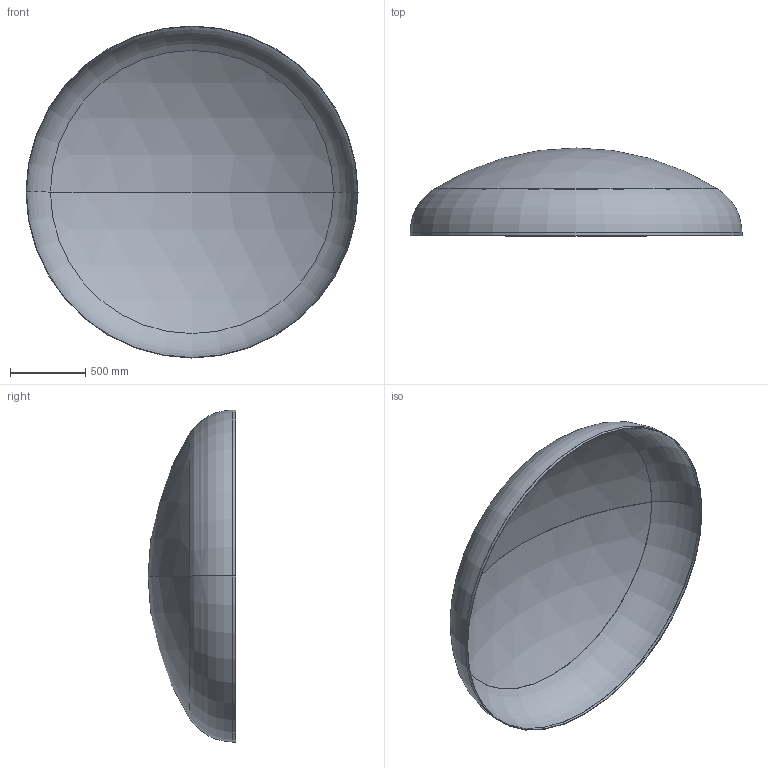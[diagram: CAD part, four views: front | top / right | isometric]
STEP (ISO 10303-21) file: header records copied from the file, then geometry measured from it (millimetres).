
FILE_DESCRIPTION (( 'STEP AP203' ), '1' );
FILE_NAME ('DIN 28013 Korbbogenform_-_Boden DIN 28013 - 2200 x 20 - I - s=3.step', '2016-07-01T14:14:54', ( '' ), ( '' ), 'SwSTEP 2.0', 'SolidWorks 2013', '' );
FILE_SCHEMA (( 'CONFIG_CONTROL_DESIGN' ));
Length unit declared in the file: millimetre
Products named in the file (1): DIN 28013 Korbbogenform_-_Boden DIN 28013 - 2200 x 20 - I - s=3
Bounding box: 2200 x 581.6 x 2200 mm (x, y, z)
Volume: 16192532.3 mm3; surface area: 10815742.2 mm2
Topology: 1 solids, 1 shells, 13 faces, 24 edges, 14 vertices
Faces by surface type: torus 4, cylinder 4, sphere 4, plane 1
Entity records: 407 total; most frequent: DIRECTION 72, CARTESIAN_POINT 52, ORIENTED_EDGE 48, AXIS2_PLACEMENT_3D 34, EDGE_CURVE 24, CIRCLE 20, VERTEX_POINT 14, EDGE_LOOP 14
